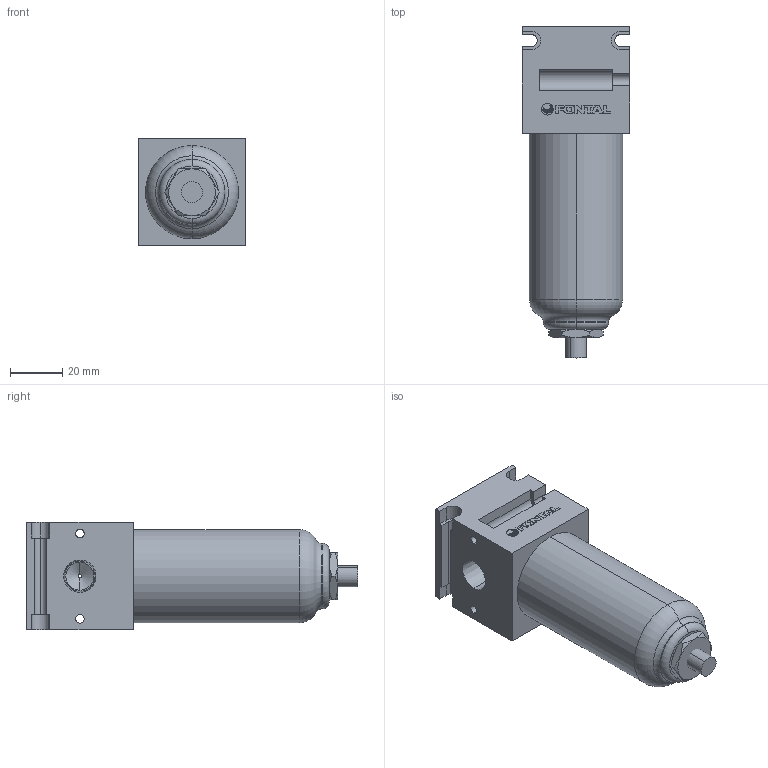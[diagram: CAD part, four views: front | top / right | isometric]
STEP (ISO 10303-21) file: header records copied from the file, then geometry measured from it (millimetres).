
FILE_DESCRIPTION (( 'STEP AP203' ), '1' );
FILE_NAME ('F45-02#Y#.STEP', '2016-01-14T18:58:54', ( '' ), ( '' ), 'SwSTEP 2.0', 'SolidWorks 2014', '' );
FILE_SCHEMA (( 'CONFIG_CONTROL_DESIGN' ));
Length unit declared in the file: millimetre
Products named in the file (6): F45-1; F45-02#Y#; F45-3; F45-MARK; F45-2; Y排水
Assembly tree (5 placements, depth 2):
  F45-02#Y#
    F45-1
    F45-2
    F45-3
    Y排水
    F45-MARK
Bounding box: 41 x 126.5 x 41.12 mm (x, y, z)
Volume: 131881.6 mm3; surface area: 24596.8 mm2
Topology: 11 solids, 11 shells, 196 faces, 498 edges, 326 vertices
Faces by surface type: plane 117, cylinder 51, cone 14, bspline 8, torus 6
Entity records: 6684 total; most frequent: CARTESIAN_POINT 1268, ORIENTED_EDGE 996, DIRECTION 984, EDGE_CURVE 498, LINE 340, VECTOR 340, VERTEX_POINT 326, AXIS2_PLACEMENT_3D 322
